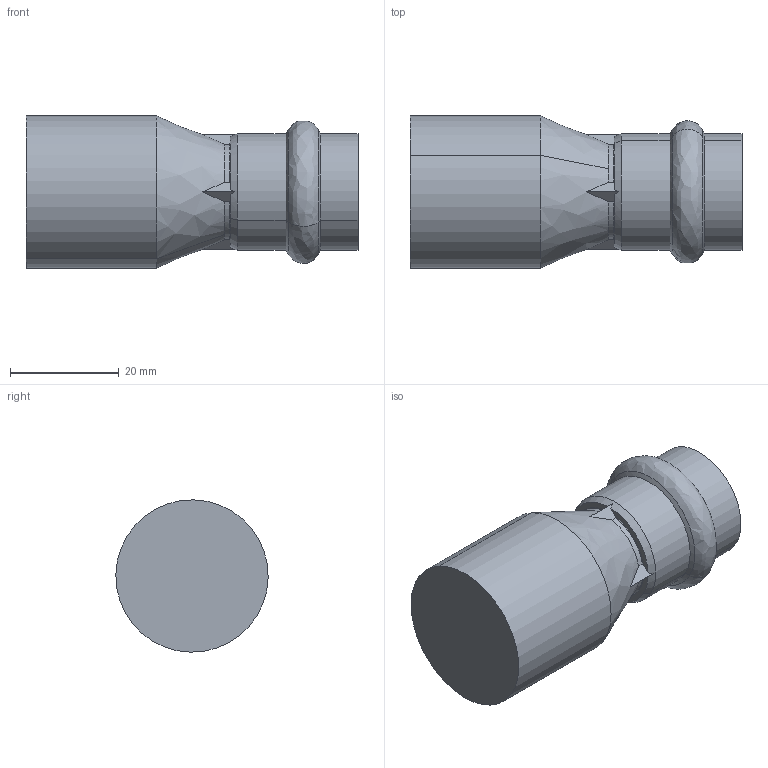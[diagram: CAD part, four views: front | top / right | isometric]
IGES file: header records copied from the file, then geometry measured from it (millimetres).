
Start section: 3D InterOp IGES (Version 25 0 2), Spatial Corp. Copyright (c) 1999-2007.
Global section: file name: pim0003597.igs; native system: Spatial Corp.; preprocessor: 3D InterOp ACIS/IGES; author: CAD-PIM; organization: TransMagic, Inc.; date: 20150914.153808; units: millimetre
Bounding box: 61 x 27.99 x 27.99 mm (x, y, z)
Volume: 23988.1 mm3; surface area: 7253.7 mm2
Topology: 1 solids, 1 shells, 41 faces, 111 edges, 73 vertices
Faces by surface type: plane 15, bspline 14, cone 6, cylinder 6
